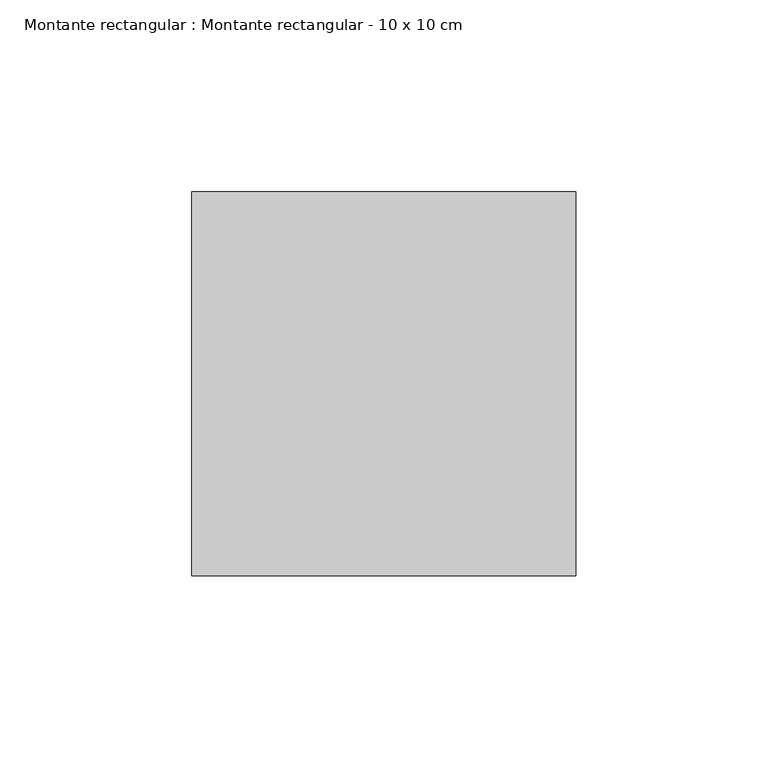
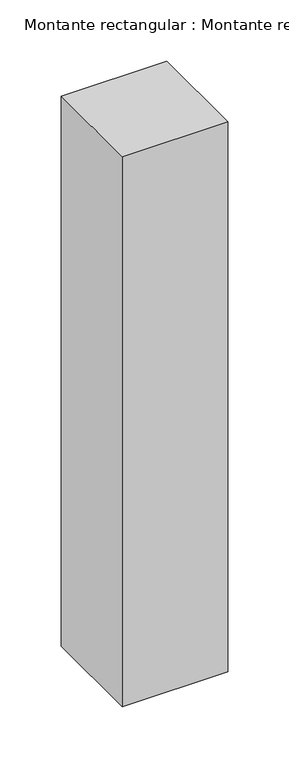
"""IFC4 building model written with IfcOpenShell, lengths in millimetres: member geometry, Montante rectangular : Montante rectangular - 10 x 10 cm."""

from ifc_helpers import new_model, si_unit, frame, origin, place, context, project, spatial, polyline, outline, extrude, source, transform, mapped, element, save


def montante_rectangular_montante_rectangular_10_x_10_cm_da1454aa(model_context):
    return source(origin(), model_context, "Body", "SweptSolid", [
        extrude(outline(polyline([(0.0, 50.0), (0.0, -50.0), (-100.0, -50.0), (-100.0, 50.0), (0.0, 50.0)])), frame((0.0, 0.0, -550.0), z_axis=(0.0, 0.0, 1.0), x_axis=(1.0, 0.0, 0.0)), (0.0, 0.0, 1.0), 550.0),
    ])


if __name__ == "__main__":
    model = new_model("IFC4")
    model_context = context("Model", 3, world=origin())
    ifc_project = project(units=[si_unit("LENGTHUNIT", "METRE", prefix="MILLI")], contexts=[model_context])
    site = spatial("IfcSite", under=ifc_project)
    building = spatial("IfcBuilding", under=site)
    placement = place(None, origin())
    montante_rectangular_montante_rectangular_10_x_10_cm_shape = montante_rectangular_montante_rectangular_10_x_10_cm_da1454aa(model_context)
    element("IfcMember", 1, ObjectType="Montante rectangular : Montante rectangular - 10 x 10 cm", at=placement, inside=building, context=model_context, shape_type="MappedRepresentation", body=[
        mapped(montante_rectangular_montante_rectangular_10_x_10_cm_shape, transform((0.0, 0.0, 0.0), x_axis=(1.0, 0.0, 0.0), y_axis=(0.0, 1.0, 0.0), z_axis=(0.0, 0.0, 1.0))),
    ])
    save(model, "model.ifc")
